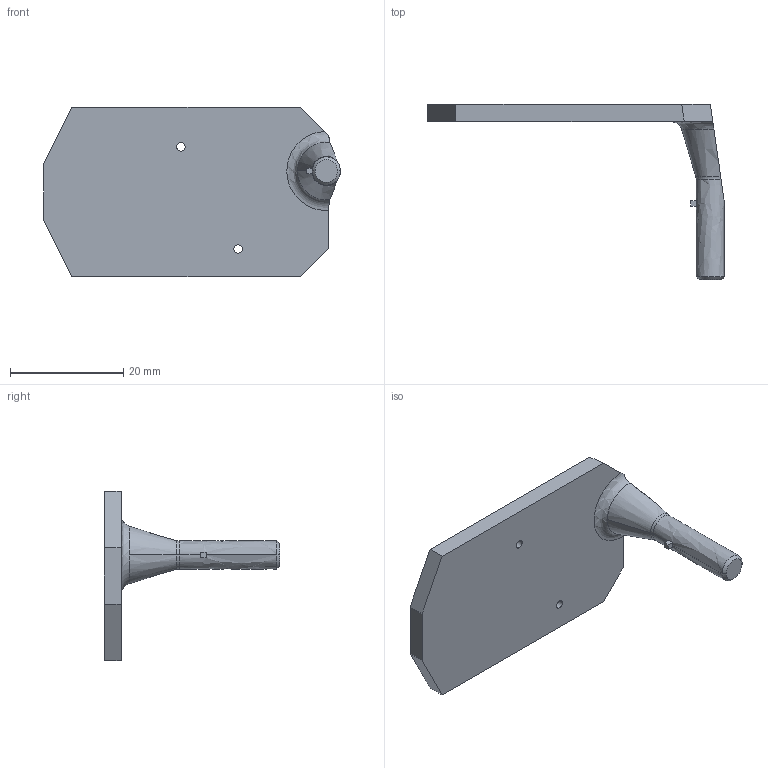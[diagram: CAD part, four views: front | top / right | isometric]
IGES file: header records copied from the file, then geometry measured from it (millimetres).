
Start section: START RECORD GO HERE.
Global section: file name: Support projecteur.igs; native system: IBM CATIA IGES - CATIA Version 5 Release 18 ; preprocessor: CATIA Version 5 Release 18 ; author: Fabien; organization: Fabien-Dell-DUO; date: 20160128.004836; units: millimetre
Bounding box: 52.5 x 31 x 30 mm (x, y, z)
Surface area: 3799.7 mm2 (no closed solid volume)
Topology: 0 solids, 0 shells, 29 faces, 156 edges, 156 vertices
Faces by surface type: plane 16, revolution 13
